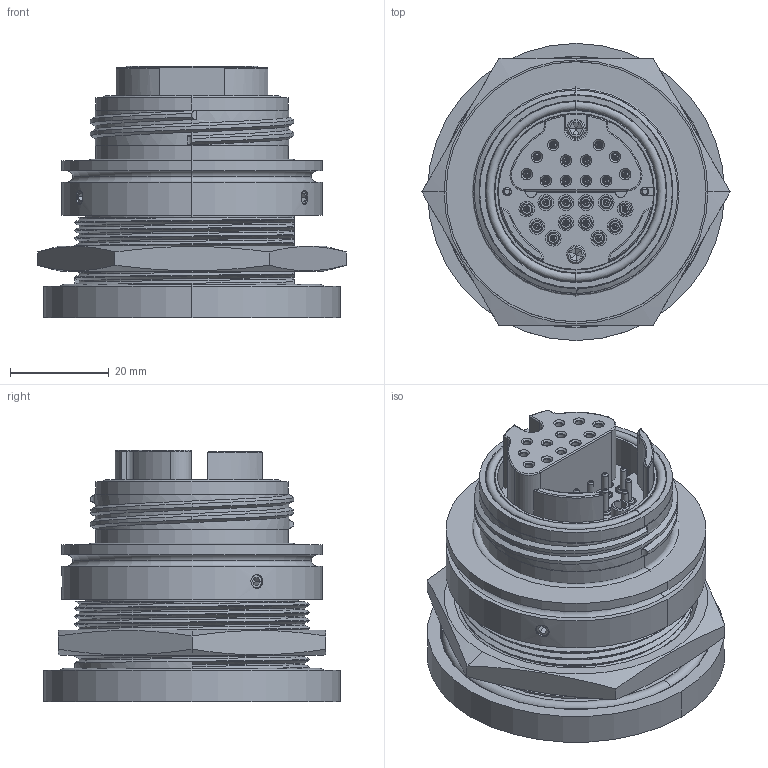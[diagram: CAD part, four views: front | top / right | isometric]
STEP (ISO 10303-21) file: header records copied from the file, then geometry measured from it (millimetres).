
FILE_DESCRIPTION (( 'STEP AP214' ), '1' );
FILE_NAME ('QFOCA3-RKFX-24X-X-S0X.STEP', '2025-08-05T22:06:15', ( '' ), ( '' ), 'SwSTEP 2.0', 'SolidWorks 2024', '' );
FILE_SCHEMA (( 'AUTOMOTIVE_DESIGN' ));
Length unit declared in the file: inch
Products named in the file (1): QFOCA3-RKFX-24X-X-S0X
Bounding box: 62.33 x 60.07 x 50.8 mm (x, y, z)
Volume: 63019.8 mm3; surface area: 35223.3 mm2
Topology: 18 solids, 33 shells, 1574 faces, 3540 edges, 2151 vertices
Faces by surface type: cylinder 612, cone 325, plane 311, torus 282, bspline 44
Entity records: 63671 total; most frequent: CARTESIAN_POINT 27742, DIRECTION 8171, ORIENTED_EDGE 7080, EDGE_CURVE 3540, AXIS2_PLACEMENT_3D 3481, VERTEX_POINT 2151, CIRCLE 1950, EDGE_LOOP 1759
